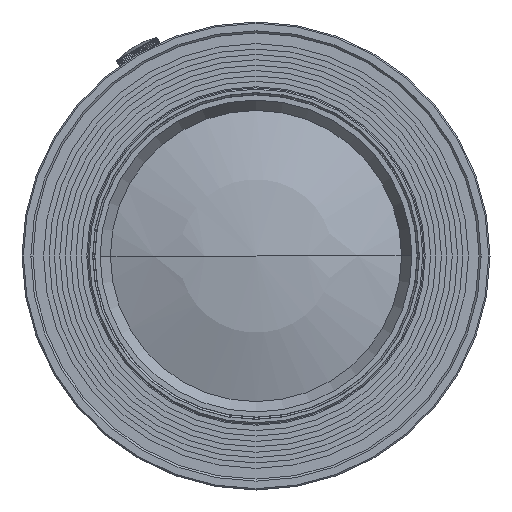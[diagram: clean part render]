
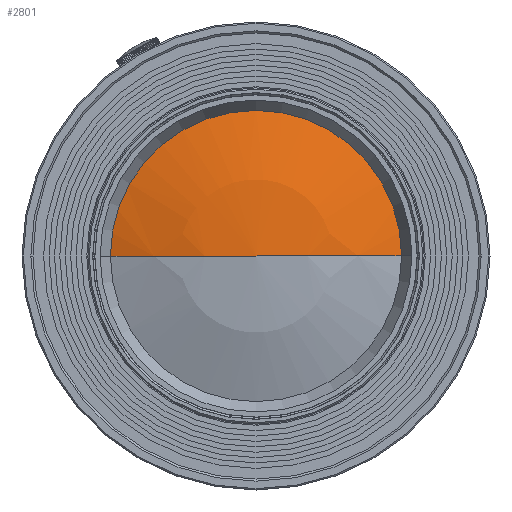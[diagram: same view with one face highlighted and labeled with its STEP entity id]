
A CAD part, left-side view. The second image highlights one B-rep face of the part: STEP entity #2801.
In plain terms, the highlighted spherical face has radius 62 mm.
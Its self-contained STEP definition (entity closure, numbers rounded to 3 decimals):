
#2645=CARTESIAN_POINT('',(42.525,0.,0.));
#2646=DIRECTION('',(0.,0.,1.));
#2647=DIRECTION('',(-1.,0.,0.));
#2648=AXIS2_PLACEMENT_3D('',#2645,#2646,#2647);
#2654=CARTESIAN_POINT('',(42.525,0.,0.));
#2655=DIRECTION('',(0.,0.,-1.));
#2656=DIRECTION('',(-1.,0.,0.));
#2657=AXIS2_PLACEMENT_3D('',#2654,#2655,#2656);
#2684=CARTESIAN_POINT('',(-15.288,0.,0.));
#2685=DIRECTION('',(-1.,0.,0.));
#2686=DIRECTION('',(0.,-1.,0.));
#2687=AXIS2_PLACEMENT_3D('',#2684,#2685,#2686);
#2768=CARTESIAN_POINT('',(-19.475,0.,0.));
#2769=CARTESIAN_POINT('',(-15.288,-22.4,0.));
#2770=VERTEX_POINT('',#2768);
#2771=VERTEX_POINT('',#2769);
#2774=CARTESIAN_POINT('',(-15.288,22.4,0.));
#2775=VERTEX_POINT('',#2774);
#2788=CARTESIAN_POINT('',(42.525,0.,0.));
#2789=DIRECTION('',(-1.,0.,0.));
#2790=DIRECTION('',(0.,1.,0.));
#2791=AXIS2_PLACEMENT_3D('',#2788,#2789,#2790);
#2792=SPHERICAL_SURFACE('',#2791,62.);
#2794=ORIENTED_EDGE('',*,*,#2793,.F.);
#2796=ORIENTED_EDGE('',*,*,#2795,.T.);
#2798=ORIENTED_EDGE('',*,*,#2797,.F.);
#2799=EDGE_LOOP('',(#2794,#2796,#2798));
#2800=FACE_OUTER_BOUND('',#2799,.F.);
#2649=CIRCLE('',#2648,62.);
#2658=CIRCLE('',#2657,62.);
#2688=CIRCLE('',#2687,22.4);
#2793=EDGE_CURVE('',#2770,#2771,#2649,.T.);
#2795=EDGE_CURVE('',#2770,#2775,#2658,.T.);
#2797=EDGE_CURVE('',#2771,#2775,#2688,.T.);
#2801=ADVANCED_FACE('',(#2800),#2792,.T.);
